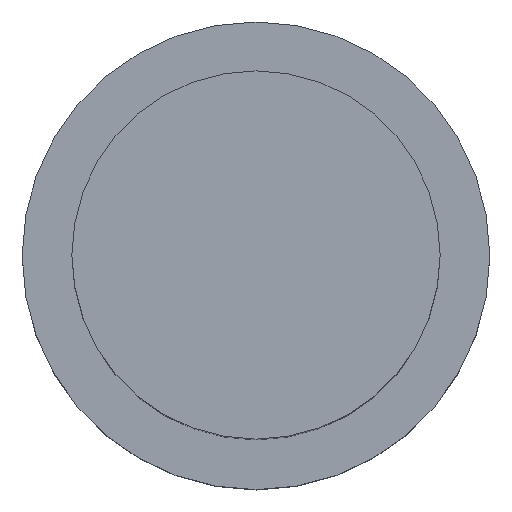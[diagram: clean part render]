
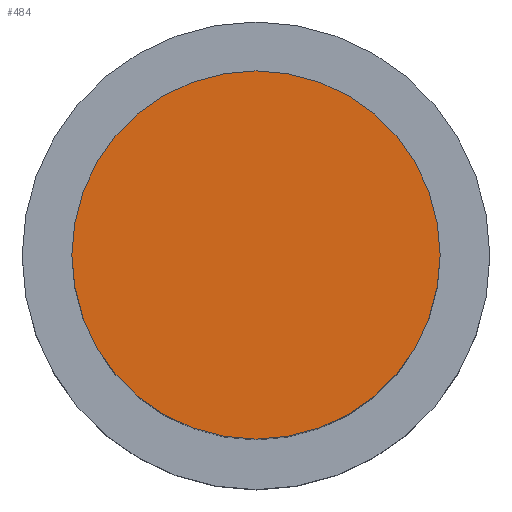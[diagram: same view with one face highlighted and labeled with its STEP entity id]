
A CAD part, top view. The second image highlights one B-rep face of the part: STEP entity #484.
In plain terms, the highlighted planar face has unit normal (0, 0, 1).
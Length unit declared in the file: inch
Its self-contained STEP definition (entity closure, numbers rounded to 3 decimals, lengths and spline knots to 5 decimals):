
#4 = CARTESIAN_POINT ( 'NONE',  ( 0., 0., 0. ) ) ;
#32 = EDGE_CURVE ( 'NONE', #216, #252, #136, .T. ) ;
#45 = DIRECTION ( 'NONE',  ( 0., 1., 0. ) ) ;
#48 = PLANE ( 'NONE',  #309 ) ;
#53 = DIRECTION ( 'NONE',  ( 0., -1., 0. ) ) ;
#136 = CIRCLE ( 'NONE', #380, 0.19685 ) ;
#148 = CARTESIAN_POINT ( 'NONE',  ( 0., 0., 0. ) ) ;
#187 = CIRCLE ( 'NONE', #504, 0.19685 ) ;
#191 = DIRECTION ( 'NONE',  ( 0., 1., 0. ) ) ;
#194 = CARTESIAN_POINT ( 'NONE',  ( 0., 0.19685, 0. ) ) ;
#216 = VERTEX_POINT ( 'NONE', #194 ) ;
#222 = ORIENTED_EDGE ( 'NONE', *, *, #32, .F. ) ;
#252 = VERTEX_POINT ( 'NONE', #276 ) ;
#276 = CARTESIAN_POINT ( 'NONE',  ( 0., -0.19685, 0. ) ) ;
#283 = DIRECTION ( 'NONE',  ( 0., 0., -1. ) ) ;
#293 = DIRECTION ( 'NONE',  ( 0., 0., 1. ) ) ;
#309 = AXIS2_PLACEMENT_3D ( 'NONE', #368, #293, #53 ) ;
#363 = EDGE_CURVE ( 'NONE', #252, #216, #187, .T. ) ;
#364 = FACE_OUTER_BOUND ( 'NONE', #458, .T. ) ;
#368 = CARTESIAN_POINT ( 'NONE',  ( 0., 0., 0. ) ) ;
#380 = AXIS2_PLACEMENT_3D ( 'NONE', #148, #421, #191 ) ;
#421 = DIRECTION ( 'NONE',  ( 0., 0., -1. ) ) ;
#443 = ORIENTED_EDGE ( 'NONE', *, *, #363, .F. ) ;
#458 = EDGE_LOOP ( 'NONE', ( #222, #443 ) ) ;
#484 = ADVANCED_FACE ( 'NONE', ( #364 ), #48, .T. ) ;
#504 = AXIS2_PLACEMENT_3D ( 'NONE', #4, #283, #45 ) ;
